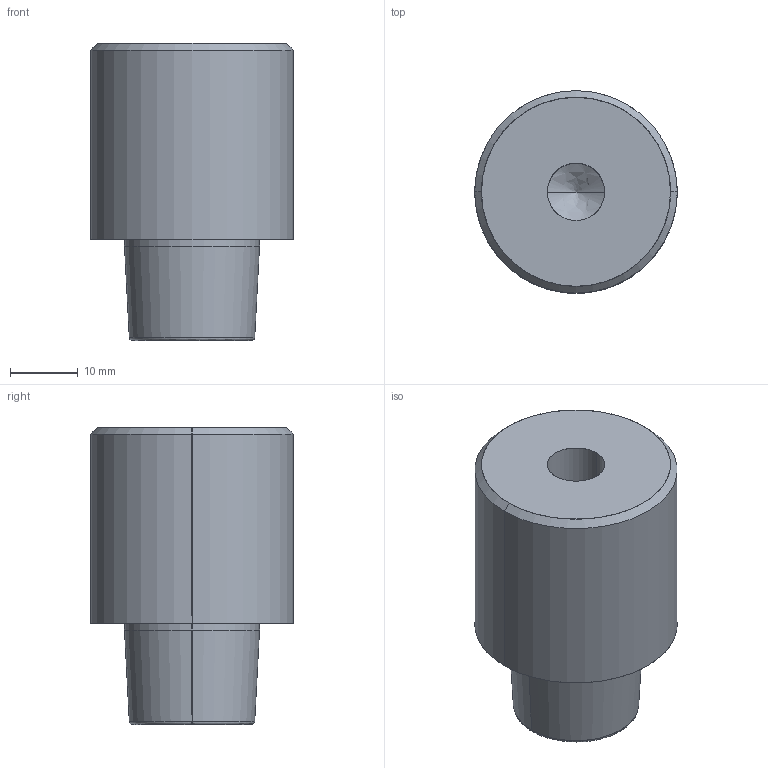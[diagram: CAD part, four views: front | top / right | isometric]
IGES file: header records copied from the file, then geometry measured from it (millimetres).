
Start section: SolidWorks IGES file using analytic representation for surfaces
Global section: file name: D:\Current\W1\TPNV\TPNV30-3\TPNVP30-3.IGS; native system: SolidWorks 2017; preprocessor: SolidWorks 2017; author: Ravi Kalvai; date: 240530.100003; units: millimetre
Bounding box: 30 x 30 x 44 mm (x, y, z)
Surface area: 5543.1 mm2 (no closed solid volume)
Topology: 0 solids, 0 shells, 17 faces, 280 edges, 278 vertices
Faces by surface type: revolution 12, bspline 5
